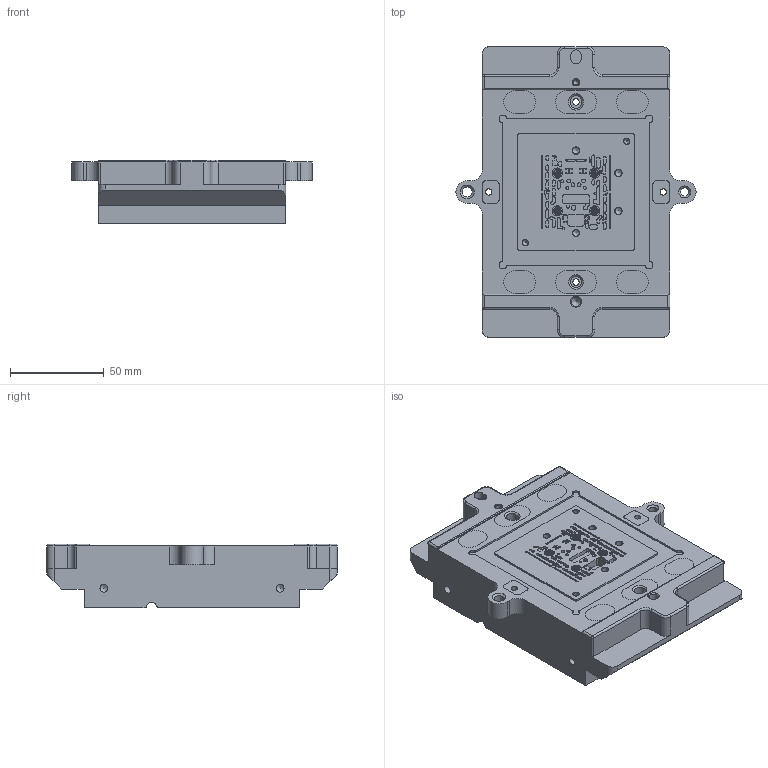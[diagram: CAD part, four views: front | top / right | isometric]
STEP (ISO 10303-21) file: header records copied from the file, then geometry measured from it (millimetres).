
FILE_DESCRIPTION(/* description */ ('Basebody'),/* implementation_level */ '2;1');
FILE_NAME(/* name */ 'Z:\Werkstatt Server\Projekte\Atlas\Entwicklung u. Konstruktion\Konstruktion\CAD Daten\ITkPixToolV2.0\Flex Jig\Step Files\ITPTv2.02.00.01rev.1.1.stp',/* time_stamp */ '2021-10-18T11:23:22+02:00',/* author */ ('Tim Kanngießer'),/* organization */ (''),/* preprocessor_version */ 'ST-DEVELOPER v18.1',/* originating_system */ 'Autodesk Inventor 2022',/* authorisation */ '');
FILE_SCHEMA (('AUTOMOTIVE_DESIGN { 1 0 10303 214 3 1 1 }'));
Length unit declared in the file: millimetre
Products named in the file (1): ITPTv2.02.00.01
Bounding box: 128 x 155 x 34 mm (x, y, z)
Volume: 372650.6 mm3; surface area: 65280.4 mm2
Topology: 9 solids, 9 shells, 890 faces, 2310 edges, 1517 vertices
Faces by surface type: cylinder 450, plane 391, cone 37, torus 8, sphere 4
Full cylindrical faces by diameter (mm): 0.6 x49, 1.2 x1, 1.5 x3, 2 x4, 2.459 x8, 2.5 x1, 3 x3, 3.4 x10, 3.6 x4, 4.134 x4, 4.4 x1, 5 x1, 5.4 x5, 6 x1
Entity records: 27698 total; most frequent: DIRECTION 5002, CARTESIAN_POINT 4756, ORIENTED_EDGE 4580, EDGE_CURVE 2290, AXIS2_PLACEMENT_3D 1827, VERTEX_POINT 1517, LINE 1348, VECTOR 1348
